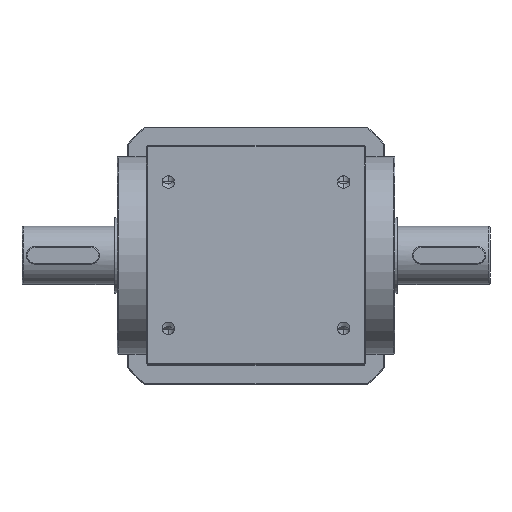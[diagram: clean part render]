
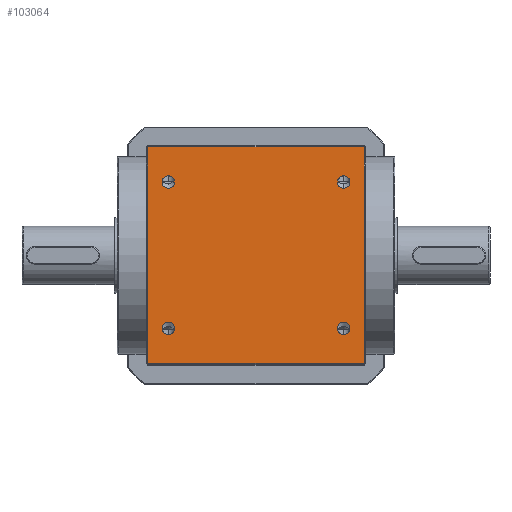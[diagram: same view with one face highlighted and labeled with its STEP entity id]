
A CAD part, top view. The second image highlights one B-rep face of the part: STEP entity #103064.
In plain terms, the highlighted planar face has unit normal (0, 0, 1) as drawn and (0, 1, 0) by its records, which use the part's own axes.
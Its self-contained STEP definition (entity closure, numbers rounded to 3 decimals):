
#1154 = FACE_OUTER_BOUND ( 'NONE', #36073, .T. ) ;
#2028 = DIRECTION ( 'NONE',  ( 0., 1., 0. ) ) ;
#3276 = AXIS2_PLACEMENT_3D ( 'NONE', #50358, #2028, #58399 ) ;
#3682 = VERTEX_POINT ( 'NONE', #57511 ) ;
#7370 = CARTESIAN_POINT ( 'NONE',  ( -60., 75., 50. ) ) ;
#8784 = DIRECTION ( 'NONE',  ( 0., 1., 0. ) ) ;
#8972 = AXIS2_PLACEMENT_3D ( 'NONE', #15981, #72253, #24107 ) ;
#9473 = PLANE ( 'NONE',  #17677 ) ;
#11060 = DIRECTION ( 'NONE',  ( 0., 1., 0. ) ) ;
#15045 = FACE_BOUND ( 'NONE', #24675, .T. ) ;
#15494 = DIRECTION ( 'NONE',  ( 0., 0., 1. ) ) ;
#15931 = DIRECTION ( 'NONE',  ( 0., 1., 0. ) ) ;
#15981 = CARTESIAN_POINT ( 'NONE',  ( -60., 75., -50. ) ) ;
#17105 = CARTESIAN_POINT ( 'NONE',  ( -60., 75., 54.25 ) ) ;
#17677 = AXIS2_PLACEMENT_3D ( 'NONE', #42264, #98076, #50376 ) ;
#19088 = AXIS2_PLACEMENT_3D ( 'NONE', #20551, #76755, #28687 ) ;
#20551 = CARTESIAN_POINT ( 'NONE',  ( 60., 75., -50. ) ) ;
#22736 = ORIENTED_EDGE ( 'NONE', *, *, #77307, .F. ) ;
#24107 = DIRECTION ( 'NONE',  ( 0., 0., 1. ) ) ;
#24675 = EDGE_LOOP ( 'NONE', ( #76040, #46892 ) ) ;
#26014 = EDGE_LOOP ( 'NONE', ( #95349, #80598 ) ) ;
#26206 = VERTEX_POINT ( 'NONE', #32898 ) ;
#26812 = AXIS2_PLACEMENT_3D ( 'NONE', #67203, #15931, #92335 ) ;
#26949 = VERTEX_POINT ( 'NONE', #68960 ) ;
#28687 = DIRECTION ( 'NONE',  ( 0., 0., 1. ) ) ;
#30433 = EDGE_CURVE ( 'NONE', #86114, #68557, #58210, .T. ) ;
#32898 = CARTESIAN_POINT ( 'NONE',  ( 60., 75., -45.75 ) ) ;
#34130 = CIRCLE ( 'NONE', #3276, 4.25 ) ;
#34443 = DIRECTION ( 'NONE',  ( 0., 1., 0. ) ) ;
#35022 = CARTESIAN_POINT ( 'NONE',  ( -75., 75., -74. ) ) ;
#36073 = EDGE_LOOP ( 'NONE', ( #60280, #86500, #78696, #88539 ) ) ;
#36541 = FACE_BOUND ( 'NONE', #26014, .T. ) ;
#36568 = ORIENTED_EDGE ( 'NONE', *, *, #57696, .F. ) ;
#36798 = CARTESIAN_POINT ( 'NONE',  ( -74., 75., -74. ) ) ;
#36968 = LINE ( 'NONE', #35022, #51666 ) ;
#37872 = DIRECTION ( 'NONE',  ( 1., 0., 0. ) ) ;
#39773 = VECTOR ( 'NONE', #47057, 1000. ) ;
#39877 = CARTESIAN_POINT ( 'NONE',  ( 74., 75., -74. ) ) ;
#39965 = CIRCLE ( 'NONE', #59073, 4.25 ) ;
#41003 = VERTEX_POINT ( 'NONE', #66608 ) ;
#42264 = CARTESIAN_POINT ( 'NONE',  ( -75., 75., 75. ) ) ;
#43257 = EDGE_CURVE ( 'NONE', #72611, #26206, #63039, .T. ) ;
#43670 = ORIENTED_EDGE ( 'NONE', *, *, #101654, .F. ) ;
#44784 = LINE ( 'NONE', #78962, #39773 ) ;
#46892 = ORIENTED_EDGE ( 'NONE', *, *, #43257, .F. ) ;
#47057 = DIRECTION ( 'NONE',  ( 0., 0., 1. ) ) ;
#47254 = CARTESIAN_POINT ( 'NONE',  ( 60., 75., 54.25 ) ) ;
#48771 = CIRCLE ( 'NONE', #74203, 4.25 ) ;
#50117 = DIRECTION ( 'NONE',  ( 1., 0., 0. ) ) ;
#50321 = CIRCLE ( 'NONE', #8972, 4.25 ) ;
#50358 = CARTESIAN_POINT ( 'NONE',  ( -60., 75., -50. ) ) ;
#50376 = DIRECTION ( 'NONE',  ( 0., 0., -1. ) ) ;
#50802 = CARTESIAN_POINT ( 'NONE',  ( -74., 75., 75. ) ) ;
#51666 = VECTOR ( 'NONE', #50117, 1000. ) ;
#52002 = EDGE_CURVE ( 'NONE', #3682, #61624, #72525, .T. ) ;
#57006 = CARTESIAN_POINT ( 'NONE',  ( 60., 75., -50. ) ) ;
#57511 = CARTESIAN_POINT ( 'NONE',  ( -60., 75., 45.75 ) ) ;
#57568 = EDGE_CURVE ( 'NONE', #26206, #72611, #61783, .T. ) ;
#57696 = EDGE_CURVE ( 'NONE', #26949, #41003, #34130, .T. ) ;
#58210 = CIRCLE ( 'NONE', #26812, 4.25 ) ;
#58294 = CARTESIAN_POINT ( 'NONE',  ( 74., 75., 74. ) ) ;
#58399 = DIRECTION ( 'NONE',  ( 0., 0., 1. ) ) ;
#59073 = AXIS2_PLACEMENT_3D ( 'NONE', #7370, #63735, #15494 ) ;
#59260 = CARTESIAN_POINT ( 'NONE',  ( -60., 75., 50. ) ) ;
#59669 = EDGE_CURVE ( 'NONE', #103008, #61873, #84538, .T. ) ;
#59699 = EDGE_CURVE ( 'NONE', #61873, #87017, #36968, .T. ) ;
#60280 = ORIENTED_EDGE ( 'NONE', *, *, #59669, .F. ) ;
#61624 = VERTEX_POINT ( 'NONE', #17105 ) ;
#61783 = CIRCLE ( 'NONE', #83860, 4.25 ) ;
#61873 = VERTEX_POINT ( 'NONE', #36798 ) ;
#62791 = EDGE_CURVE ( 'NONE', #87017, #83884, #44784, .T. ) ;
#63039 = CIRCLE ( 'NONE', #19088, 4.25 ) ;
#63173 = CARTESIAN_POINT ( 'NONE',  ( 60., 75., -54.25 ) ) ;
#63735 = DIRECTION ( 'NONE',  ( 0., 1., 0. ) ) ;
#65163 = DIRECTION ( 'NONE',  ( 0., 0., 1. ) ) ;
#66608 = CARTESIAN_POINT ( 'NONE',  ( -60., 75., -54.25 ) ) ;
#67203 = CARTESIAN_POINT ( 'NONE',  ( 60., 75., 50. ) ) ;
#67359 = DIRECTION ( 'NONE',  ( 0., 0., 1. ) ) ;
#68557 = VERTEX_POINT ( 'NONE', #47254 ) ;
#68960 = CARTESIAN_POINT ( 'NONE',  ( -60., 75., -45.75 ) ) ;
#72253 = DIRECTION ( 'NONE',  ( 0., 1., 0. ) ) ;
#72525 = CIRCLE ( 'NONE', #96567, 4.25 ) ;
#72611 = VERTEX_POINT ( 'NONE', #63173 ) ;
#72652 = EDGE_LOOP ( 'NONE', ( #36568, #43670 ) ) ;
#73302 = DIRECTION ( 'NONE',  ( 0., 0., -1. ) ) ;
#73538 = CARTESIAN_POINT ( 'NONE',  ( -74., 75., 74. ) ) ;
#74203 = AXIS2_PLACEMENT_3D ( 'NONE', #82486, #34443, #90406 ) ;
#76040 = ORIENTED_EDGE ( 'NONE', *, *, #57568, .F. ) ;
#76118 = EDGE_LOOP ( 'NONE', ( #22736, #77479 ) ) ;
#76658 = FACE_BOUND ( 'NONE', #76118, .T. ) ;
#76755 = DIRECTION ( 'NONE',  ( 0., 1., 0. ) ) ;
#77307 = EDGE_CURVE ( 'NONE', #68557, #86114, #48771, .T. ) ;
#77479 = ORIENTED_EDGE ( 'NONE', *, *, #30433, .F. ) ;
#77905 = EDGE_CURVE ( 'NONE', #61624, #3682, #39965, .T. ) ;
#78696 = ORIENTED_EDGE ( 'NONE', *, *, #62791, .F. ) ;
#78873 = EDGE_CURVE ( 'NONE', #103008, #83884, #88068, .T. ) ;
#78962 = CARTESIAN_POINT ( 'NONE',  ( 74., 75., 75. ) ) ;
#80598 = ORIENTED_EDGE ( 'NONE', *, *, #52002, .F. ) ;
#82486 = CARTESIAN_POINT ( 'NONE',  ( 60., 75., 50. ) ) ;
#83860 = AXIS2_PLACEMENT_3D ( 'NONE', #57006, #8784, #65163 ) ;
#83884 = VERTEX_POINT ( 'NONE', #58294 ) ;
#84538 = LINE ( 'NONE', #50802, #103679 ) ;
#85597 = VECTOR ( 'NONE', #37872, 1000. ) ;
#86114 = VERTEX_POINT ( 'NONE', #102843 ) ;
#86500 = ORIENTED_EDGE ( 'NONE', *, *, #78873, .T. ) ;
#87017 = VERTEX_POINT ( 'NONE', #39877 ) ;
#88068 = LINE ( 'NONE', #93728, #85597 ) ;
#88539 = ORIENTED_EDGE ( 'NONE', *, *, #59699, .F. ) ;
#90406 = DIRECTION ( 'NONE',  ( 0., 0., 1. ) ) ;
#92335 = DIRECTION ( 'NONE',  ( 0., 0., 1. ) ) ;
#93728 = CARTESIAN_POINT ( 'NONE',  ( 0., 75., 74. ) ) ;
#95349 = ORIENTED_EDGE ( 'NONE', *, *, #77905, .F. ) ;
#96567 = AXIS2_PLACEMENT_3D ( 'NONE', #59260, #11060, #67359 ) ;
#97738 = FACE_BOUND ( 'NONE', #72652, .T. ) ;
#98076 = DIRECTION ( 'NONE',  ( 0., -1., 0. ) ) ;
#101654 = EDGE_CURVE ( 'NONE', #41003, #26949, #50321, .T. ) ;
#102843 = CARTESIAN_POINT ( 'NONE',  ( 60., 75., 45.75 ) ) ;
#103008 = VERTEX_POINT ( 'NONE', #73538 ) ;
#103064 = ADVANCED_FACE ( 'NONE', ( #1154, #97738, #15045, #36541, #76658 ), #9473, .F. ) ;
#103679 = VECTOR ( 'NONE', #73302, 1000. ) ;
